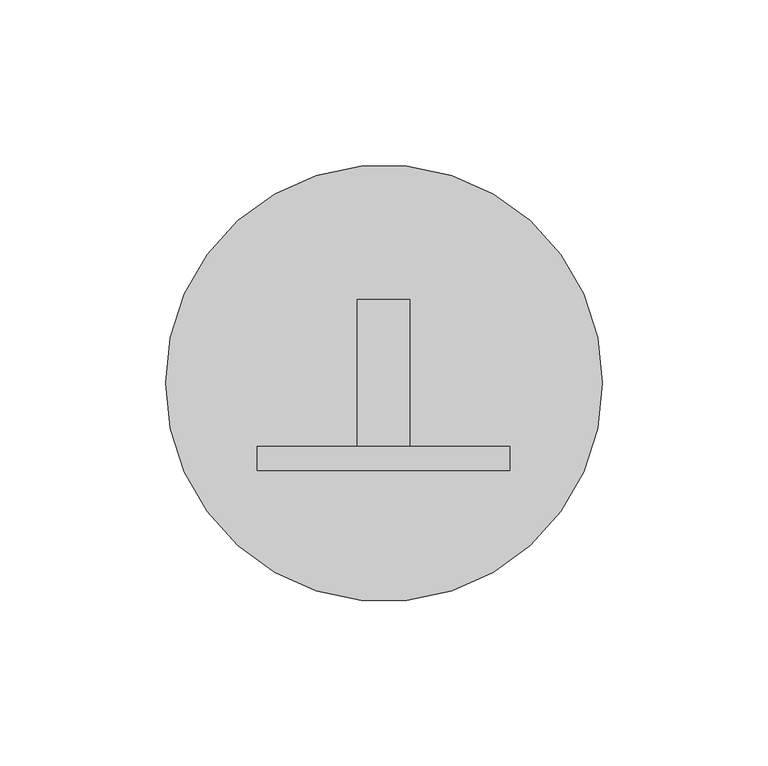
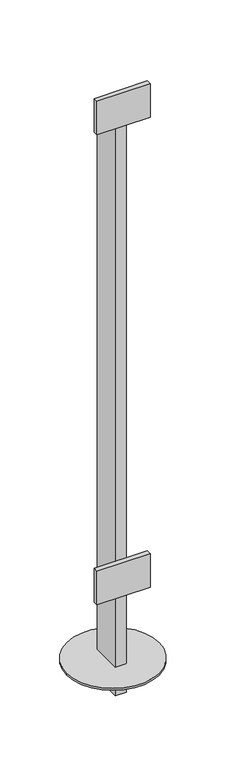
"""IFC4 building model written with IfcOpenShell, lengths in millimetres: proxy geometry, Baluster-End-Post-VIVA-STRUC-Top Mount : CORED INTO CONCRETE_TOP MOUNT STRUC_STRAIGHT."""

from ifc_helpers import new_model, si_unit, point, frame, frame_2d, origin, place, context, project, spatial, polyline, circle_curve, trimmed, segment, composite_curve, outline, extrude, source, transform, mapped, element, save


def building_element_proxy_d74b3768(model_context):
    return source(origin(), model_context, "Body", "SweptSolid", [
        extrude(outline(polyline([(58.9780808, -123.8478567), (58.9780808, -116.7358567), (135.1795192, -116.7358567), (135.1795192, -123.8478567), (58.9780808, -123.8478567)])), frame((0.0, 0.0, 824.3906928), z_axis=(0.0, 0.0, 1.0), x_axis=(1.0, 0.0, 0.0)), (0.0, 0.0, 1.0), 50.8),
        extrude(outline(polyline([(58.9780808, -123.8478567), (58.9780808, -116.7358567), (135.1795192, -116.7358567), (135.1795192, -123.8478567), (58.9780808, -123.8478567)])), frame((0.0, 0.0, 113.1906928), z_axis=(0.0, 0.0, 1.0), x_axis=(1.0, 0.0, 0.0)), (0.0, 0.0, 1.0), 50.8),
        extrude(outline(composite_curve([segment(trimmed(circle_curve(frame_2d((97.19755, -97.3499934)), 66.0), [point((163.19755, -97.3499934))], [point((31.19755, -97.3499934))], False, "CARTESIAN"), True, "CONTINUOUS"), segment(trimmed(circle_curve(frame_2d((97.19755, -97.3499934)), 66.0), [point((31.19755, -97.3499934))], [point((163.19755, -97.3499934))], False, "CARTESIAN"), True, "CONTINUOUS")], self_intersect=False)), frame((0.0, 0.0, 0.5143555), z_axis=(0.0, 0.0, 1.0), x_axis=(1.0, 0.0, 0.0)), (0.0, 0.0, 1.0), 3.0),
        extrude(outline(polyline([(89.1413, -72.2858567), (105.0163, -72.2858567), (105.0163, -116.7358567), (89.1413, -116.7358567), (89.1413, -72.2858567)])), frame((0.0, 0.0, -39.2093072), z_axis=(0.0, 0.0, 1.0), x_axis=(1.0, 0.0, 0.0)), (0.0, 0.0, 1.0), 870.9831072),
    ])


if __name__ == "__main__":
    model = new_model("IFC4")
    model_context = context("Model", 3, world=origin())
    ifc_project = project(units=[si_unit("LENGTHUNIT", "METRE", prefix="MILLI")], contexts=[model_context])
    site = spatial("IfcSite", under=ifc_project)
    building = spatial("IfcBuilding", under=site)
    placement = place(None, origin())
    building_element_proxy_shape = building_element_proxy_d74b3768(model_context)
    element("IfcBuildingElementProxy", 1, Name="Baluster-End-Post-VIVA-STRUC-Top Mount : CORED INTO CONCRETE_TOP MOUNT STRUC_STRAIGHT", ObjectType="Baluster-End-Post-VIVA-STRUC-Top Mount : CORED INTO CONCRETE_TOP MOUNT STRUC_STRAIGHT", at=placement, inside=building, context=model_context, shape_type="MappedRepresentation", body=[
        mapped(building_element_proxy_shape, transform((0.0, 0.0, 0.0), x_axis=(1.0, 0.0, 0.0), y_axis=(0.0, 1.0, 0.0), z_axis=(0.0, 0.0, 1.0))),
    ])
    save(model, "model.ifc")
